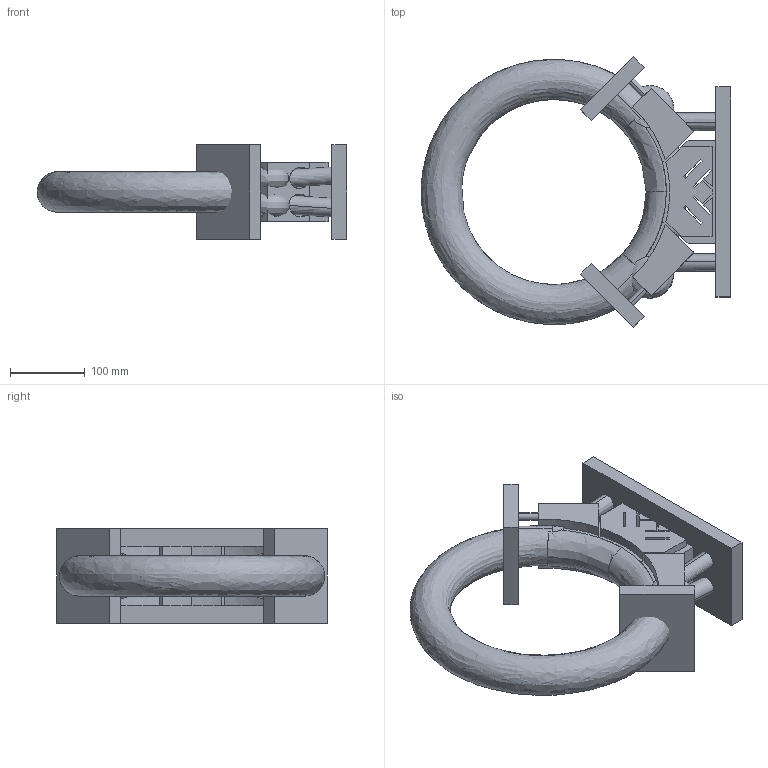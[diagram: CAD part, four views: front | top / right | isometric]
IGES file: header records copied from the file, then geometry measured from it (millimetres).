
Start section: IMSI TurboCAD v14.0
Global section: author: NULL; organization: NULL; date: 20250711.181218; units: millimetre
Bounding box: 412.9 x 360.62 x 126 mm (x, y, z)
Surface area: 1199694.6 mm2 (no closed solid volume)
Topology: 0 solids, 0 shells, 171 faces, 1110 edges, 1107 vertices
Faces by surface type: revolution 93, extrusion 78
